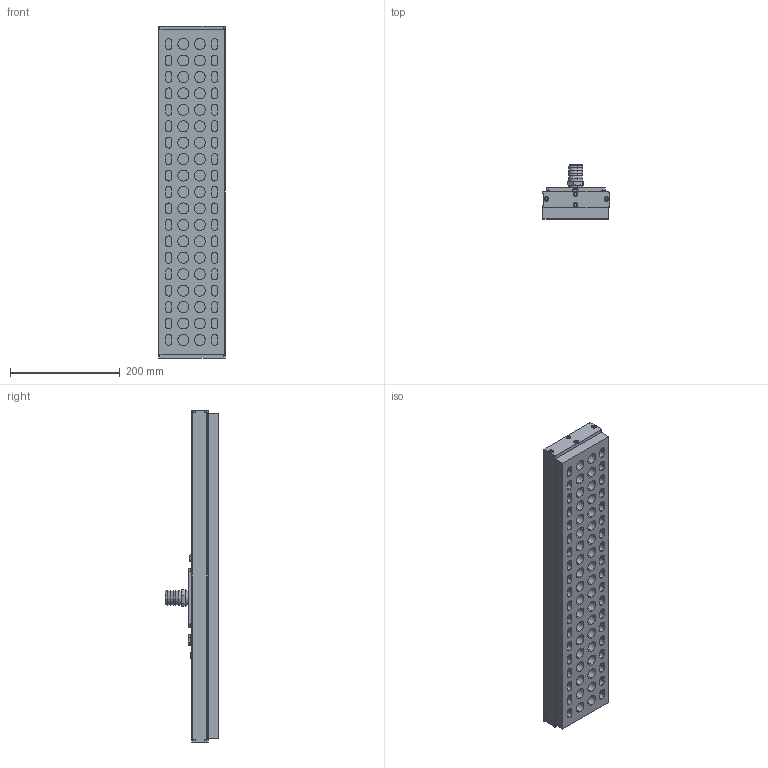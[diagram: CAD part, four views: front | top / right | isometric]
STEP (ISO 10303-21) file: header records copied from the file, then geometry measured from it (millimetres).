
FILE_DESCRIPTION (( 'STEP AP214' ), '1' );
FILE_NAME ('310 600 017.STEP', '2018-01-10T08:52:50', ( '' ), ( '' ), 'SwSTEP 2.0', 'SolidWorks 2017', '' );
FILE_SCHEMA (( 'AUTOMOTIVE_DESIGN' ));
Length unit declared in the file: millimetre
Products named in the file (1): 310 600 017
Bounding box: 121.5 x 98.5 x 606 mm (x, y, z)
Volume: 3274080 mm3; surface area: 331112.3 mm2
Topology: 1 solids, 1 shells, 806 faces, 1898 edges, 1212 vertices
Faces by surface type: cylinder 374, plane 302, torus 86, cone 34, bspline 6, sphere 4
Entity records: 32674 total; most frequent: CARTESIAN_POINT 4491, DIRECTION 4410, ORIENTED_EDGE 3776, EDGE_CURVE 1888, AXIS2_PLACEMENT_3D 1765, VERTEX_POINT 1206, CIRCLE 964, EDGE_LOOP 930
